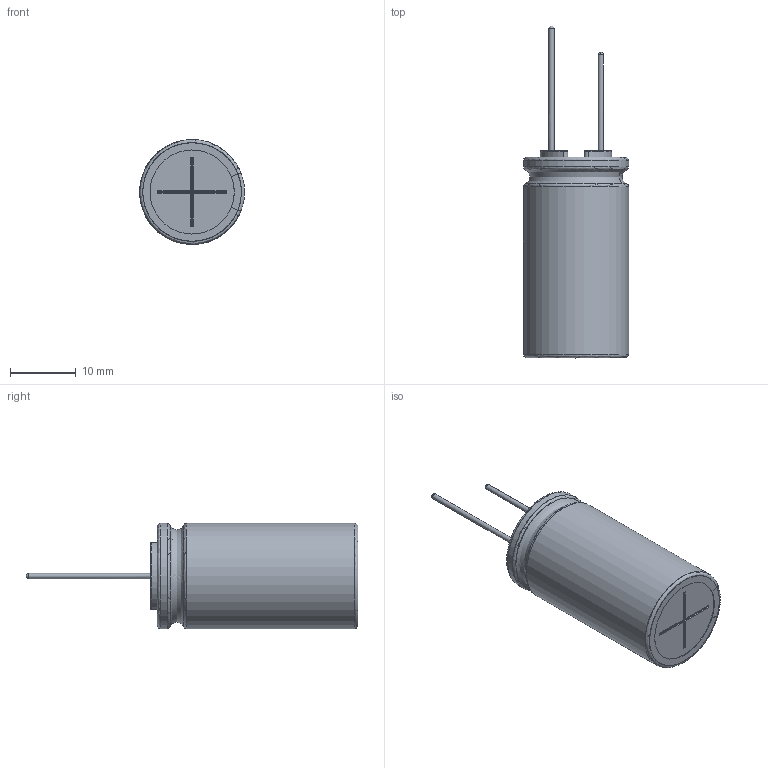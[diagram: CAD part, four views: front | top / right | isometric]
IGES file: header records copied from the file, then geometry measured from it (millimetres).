
Start section: JAMA-IS VERSION  1.0
Bounding box: 15.98 x 50.5 x 16 mm (x, y, z)
Surface area: 5427.2 mm2 (no closed solid volume)
Topology: 0 solids, 0 shells, 132 faces, 1511 edges, 1492 vertices
Faces by surface type: bspline 132
